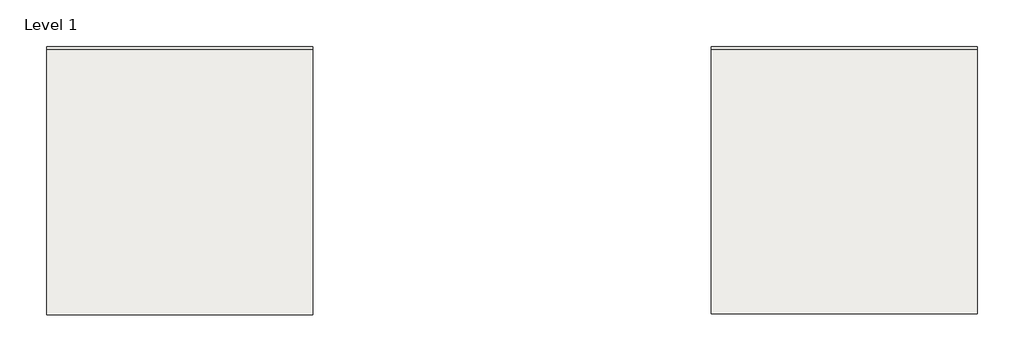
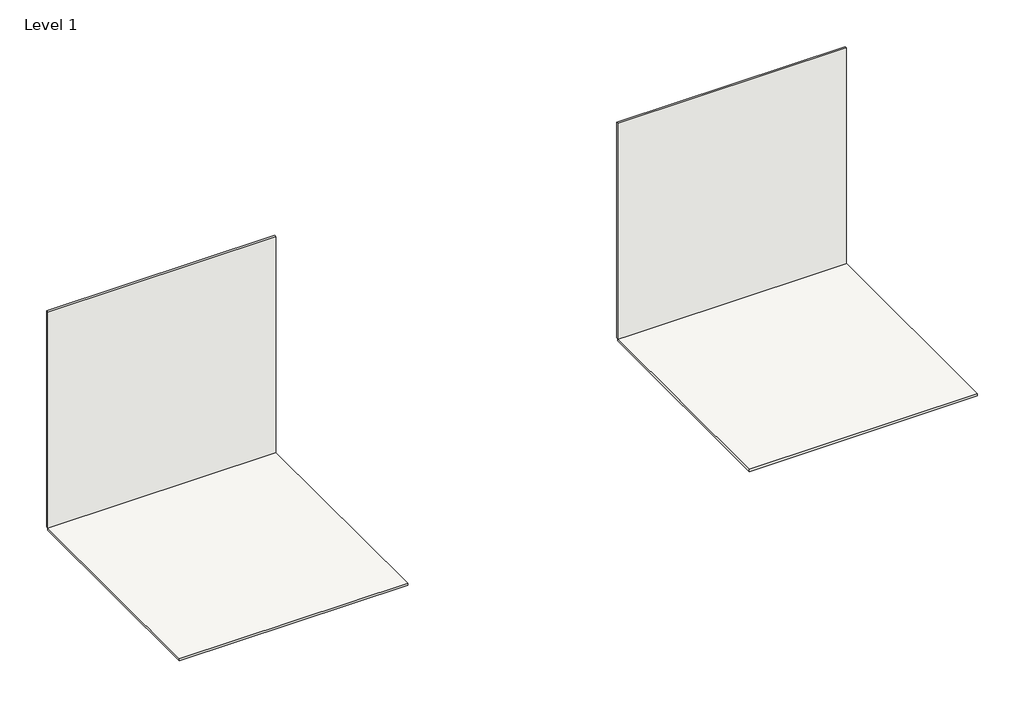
# One storey: 4 coverings.
"""IFC4 building model written with IfcOpenShell, lengths in millimetres."""

from ifc_helpers import new_model, si_unit, frame, origin, origin_with_axes, place, context, project, spatial, polyline, outline, extrude, element, save

model = new_model("IFC4")

# Units and contexts
model_context = context("Model", 3, world=origin())
ifc_project = project(units=[si_unit("LENGTHUNIT", "METRE", prefix="MILLI")], contexts=[model_context])

# Site, building, storey
site = spatial("IfcSite", under=ifc_project)
building = spatial("IfcBuilding", under=site)
storey = spatial("IfcBuildingStorey", under=building, Name="Level 1", Elevation=0.0)

# Coverings
placement = place(None, origin())
element("IfcCovering", 1, ObjectType="REVIGRES-CALACATTA CLASSIC-HEXAGONO-50.4x58.2-MATT RECT-CLASSIC", at=placement, inside=storey, context=model_context, shape_type="SweptSolid", body=[
    extrude(outline(polyline([(-63.0685826, -8930.2622782), (-1063.0685826, -8930.2622782), (-1063.0685826, -8920.4622782), (-63.0685826, -8920.4622782), (-63.0685826, -8930.2622782)])), origin_with_axes(), (0.0, 0.0, 1.0), 1000.0),
])
element("IfcCovering", 2, ObjectType="REVIGRES-CALACATTA_CLASSIC-HEXAGONO-50.4x58.2-POL-CLASSIC", at=placement, inside=storey, context=model_context, shape_type="SweptSolid", body=[
    extrude(outline(polyline([(2436.9314174, -8925.3622782), (2436.9314174, -9925.3622782), (1436.9314174, -9925.3622782), (1436.9314174, -8925.3622782), (2436.9314174, -8925.3622782)])), frame((0.0, 0.0, -9.8), z_axis=(0.0, 0.0, 1.0), x_axis=(1.0, 0.0, 0.0)), (0.0, 0.0, 1.0), 9.8),
])
element("IfcCovering", 3, ObjectType="REVIGRES-CALACATTA CLASSIC-HEXAGONO-50.4x58.2-POL-CLASSIC", at=placement, inside=storey, context=model_context, shape_type="SweptSolid", body=[
    extrude(outline(polyline([(2436.9314174, -8930.2622782), (1436.9314174, -8930.2622782), (1436.9314174, -8920.4622782), (2436.9314174, -8920.4622782), (2436.9314174, -8930.2622782)])), origin_with_axes(), (0.0, 0.0, 1.0), 1000.0),
])
element("IfcCovering", 4, ObjectType="REVIGRES-CALACATTA_CLASSIC-HEXAGONO-50.4x58.2-MATTRECT-CLASSIC", at=placement, inside=storey, context=model_context, shape_type="SweptSolid", body=[
    extrude(outline(polyline([(-63.0685826, -8930.2622782), (-63.0685826, -9929.6122782), (-1063.0685826, -9929.6122782), (-1063.0685826, -8930.2622782), (-63.0685826, -8930.2622782)])), frame((0.0, 0.0, -9.8), z_axis=(0.0, 0.0, 1.0), x_axis=(1.0, 0.0, 0.0)), (0.0, 0.0, 1.0), 9.8),
])

save(model, "model.ifc")
